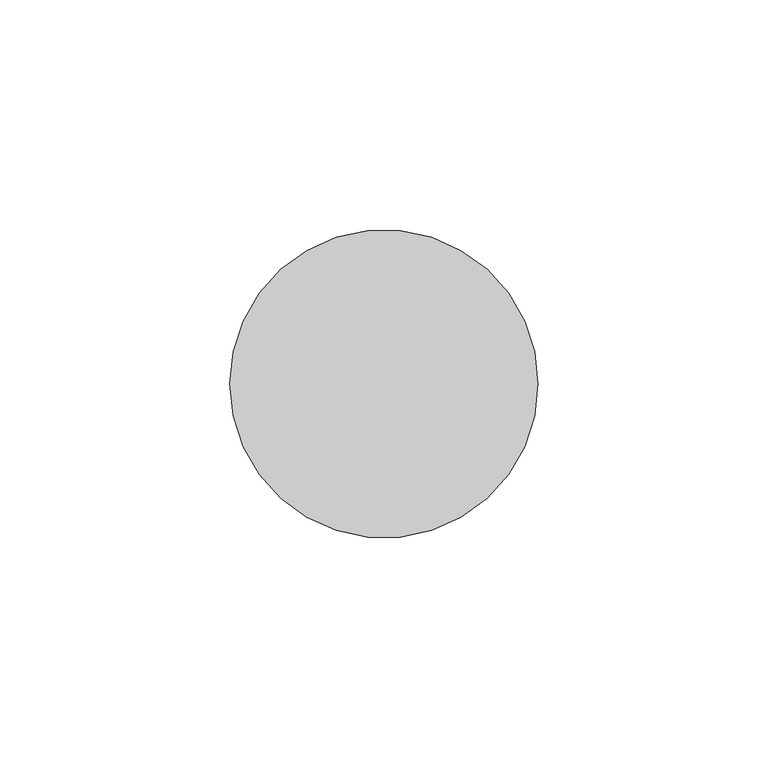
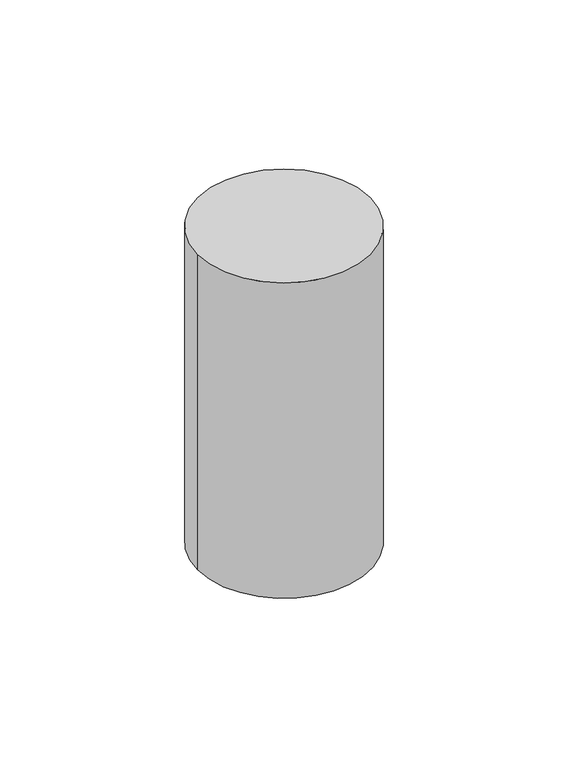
"""IFC4 building model written with IfcOpenShell, lengths in millimetres: light fixture geometry."""

from ifc_helpers import new_model, si_unit, point, frame, origin, origin_with_axes, origin_2d, place, context, project, spatial, circle_curve, trimmed, segment, composite_curve, outline, extrude, source, transform, mapped, element, save


def light_fixture_a84a45fd(model_context):
    return source(origin(), model_context, "Body", "SweptSolid", [
        extrude(outline(composite_curve([segment(trimmed(circle_curve(origin_2d(), 13.5), [point((-13.5, 0.0))], [point((13.5, 0.0))], False, "CARTESIAN"), True, "CONTINUOUS"), segment(trimmed(circle_curve(origin_2d(), 13.5), [point((13.5, 0.0))], [point((-13.5, 0.0))], False, "CARTESIAN"), True, "CONTINUOUS")], self_intersect=False)), frame((0.0, 0.0, 2.0), z_axis=(0.0, 0.0, 1.0), x_axis=(1.0, 0.0, 0.0)), (0.0, 0.0, 1.0), 2.0),
        extrude(outline(composite_curve([segment(trimmed(circle_curve(origin_2d(), 33.5), [point((-33.5, 0.0))], [point((33.5, 0.0))], False, "CARTESIAN"), True, "CONTINUOUS"), segment(trimmed(circle_curve(origin_2d(), 33.5), [point((33.5, 0.0))], [point((-33.5, 0.0))], False, "CARTESIAN"), True, "CONTINUOUS")], self_intersect=False)), origin_with_axes(), (0.0, 0.0, 1.0), 130.0),
    ])


if __name__ == "__main__":
    model = new_model("IFC4")
    model_context = context("Model", 3, world=origin())
    ifc_project = project(units=[si_unit("LENGTHUNIT", "METRE", prefix="MILLI")], contexts=[model_context])
    site = spatial("IfcSite", under=ifc_project)
    building = spatial("IfcBuilding", under=site)
    placement = place(None, origin())
    light_fixture_shape = light_fixture_a84a45fd(model_context)
    element("IfcLightFixture", 1, at=placement, inside=building, context=model_context, shape_type="MappedRepresentation", body=[
        mapped(light_fixture_shape, transform((0.0, 0.0, 0.0), x_axis=(1.0, 0.0, 0.0), y_axis=(0.0, 1.0, 0.0), z_axis=(0.0, 0.0, 1.0))),
    ])
    save(model, "model.ifc")
